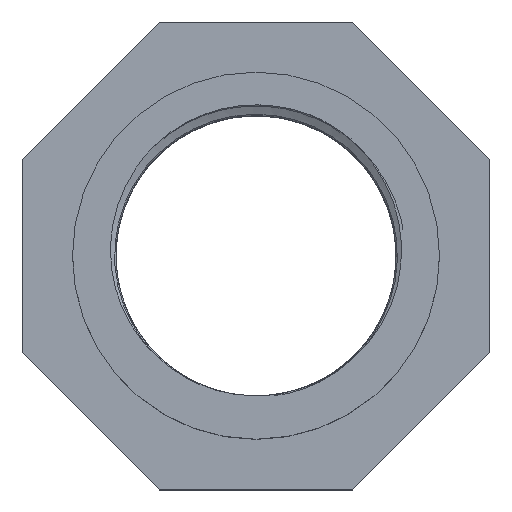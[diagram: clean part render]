
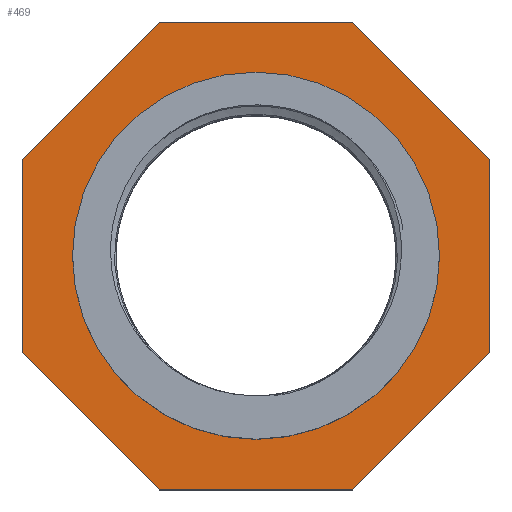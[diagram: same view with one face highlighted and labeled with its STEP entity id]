
A CAD part, top view. The second image highlights one B-rep face of the part: STEP entity #469.
In plain terms, the highlighted planar face has unit normal (0, 0, 1).
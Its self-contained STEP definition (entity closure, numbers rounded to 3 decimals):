
#16=FACE_BOUND('',#107,.T.);
#38=PLANE('',#497);
#49=CIRCLE('',#498,25.5);
#76=FACE_OUTER_BOUND('',#106,.T.);
#106=EDGE_LOOP('',(#411,#412,#413,#414,#415,#416,#417,#418));
#107=EDGE_LOOP('',(#419));
#126=LINE('',#8736,#156);
#130=LINE('',#8744,#160);
#133=LINE('',#8750,#163);
#136=LINE('',#8756,#166);
#139=LINE('',#8762,#169);
#142=LINE('',#8768,#172);
#145=LINE('',#8774,#175);
#148=LINE('',#8779,#178);
#156=VECTOR('',#539,26.924);
#160=VECTOR('',#545,26.924);
#163=VECTOR('',#550,26.924);
#166=VECTOR('',#555,26.924);
#169=VECTOR('',#560,26.924);
#172=VECTOR('',#565,26.924);
#175=VECTOR('',#570,26.924);
#178=VECTOR('',#575,26.924);
#224=VERTEX_POINT('',#8734);
#225=VERTEX_POINT('',#8735);
#228=VERTEX_POINT('',#8743);
#230=VERTEX_POINT('',#8749);
#232=VERTEX_POINT('',#8755);
#234=VERTEX_POINT('',#8761);
#236=VERTEX_POINT('',#8767);
#238=VERTEX_POINT('',#8773);
#240=VERTEX_POINT('',#8783);
#280=EDGE_CURVE('',#224,#225,#126,.T.);
#284=EDGE_CURVE('',#228,#224,#130,.T.);
#287=EDGE_CURVE('',#230,#228,#133,.T.);
#290=EDGE_CURVE('',#232,#230,#136,.T.);
#293=EDGE_CURVE('',#234,#232,#139,.T.);
#296=EDGE_CURVE('',#236,#234,#142,.T.);
#299=EDGE_CURVE('',#238,#236,#145,.T.);
#302=EDGE_CURVE('',#225,#238,#148,.T.);
#304=EDGE_CURVE('',#240,#240,#49,.T.);
#411=ORIENTED_EDGE('',*,*,#302,.F.);
#412=ORIENTED_EDGE('',*,*,#280,.F.);
#413=ORIENTED_EDGE('',*,*,#284,.F.);
#414=ORIENTED_EDGE('',*,*,#287,.F.);
#415=ORIENTED_EDGE('',*,*,#290,.F.);
#416=ORIENTED_EDGE('',*,*,#293,.F.);
#417=ORIENTED_EDGE('',*,*,#296,.F.);
#418=ORIENTED_EDGE('',*,*,#299,.F.);
#419=ORIENTED_EDGE('',*,*,#304,.F.);
#469=ADVANCED_FACE('',(#76,#16),#38,.T.);
#497=AXIS2_PLACEMENT_3D('',#8782,#579,#580);
#498=AXIS2_PLACEMENT_3D('',#8784,#581,#582);
#539=DIRECTION('',(1.,0.,0.));
#545=DIRECTION('',(0.707,0.707,0.));
#550=DIRECTION('',(0.,1.,0.));
#555=DIRECTION('',(-0.707,0.707,0.));
#560=DIRECTION('',(-1.,0.,0.));
#565=DIRECTION('',(-0.707,-0.707,0.));
#570=DIRECTION('',(0.,-1.,0.));
#575=DIRECTION('',(0.707,-0.707,0.));
#579=DIRECTION('center_axis',(0.,0.,1.));
#580=DIRECTION('ref_axis',(1.,0.,0.));
#581=DIRECTION('center_axis',(0.,0.,1.));
#582=DIRECTION('ref_axis',(1.,0.,0.));
#8734=CARTESIAN_POINT('',(-13.462,32.5,40.));
#8735=CARTESIAN_POINT('',(13.462,32.5,40.));
#8736=CARTESIAN_POINT('',(-13.462,32.5,40.));
#8743=CARTESIAN_POINT('',(-32.5,13.462,40.));
#8744=CARTESIAN_POINT('',(-32.5,13.462,40.));
#8749=CARTESIAN_POINT('',(-32.5,-13.462,40.));
#8750=CARTESIAN_POINT('',(-32.5,-13.462,40.));
#8755=CARTESIAN_POINT('',(-13.462,-32.5,40.));
#8756=CARTESIAN_POINT('',(-13.462,-32.5,40.));
#8761=CARTESIAN_POINT('',(13.462,-32.5,40.));
#8762=CARTESIAN_POINT('',(13.462,-32.5,40.));
#8767=CARTESIAN_POINT('',(32.5,-13.462,40.));
#8768=CARTESIAN_POINT('',(32.5,-13.462,40.));
#8773=CARTESIAN_POINT('',(32.5,13.462,40.));
#8774=CARTESIAN_POINT('',(32.5,13.462,40.));
#8779=CARTESIAN_POINT('',(13.462,32.5,40.));
#8782=CARTESIAN_POINT('Origin',(25.5,0.,40.));
#8783=CARTESIAN_POINT('',(25.5,0.,40.));
#8784=CARTESIAN_POINT('Origin',(0.,0.,40.));
